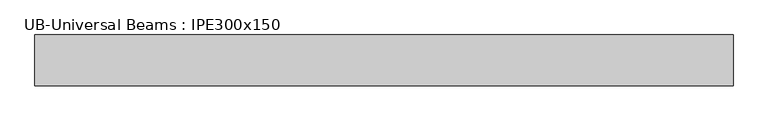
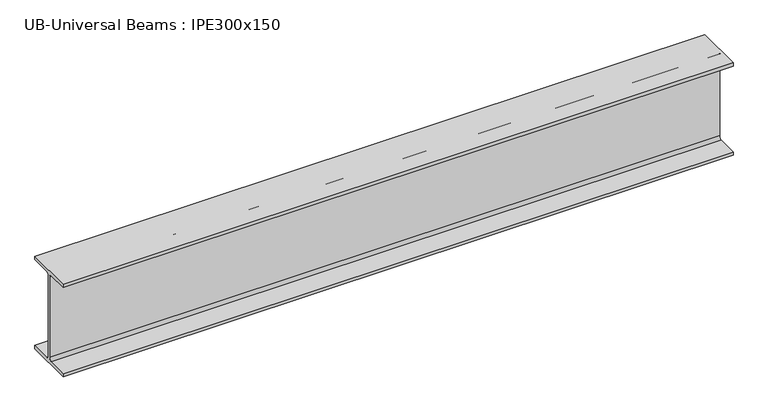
"""IFC4 building model written with IfcOpenShell, lengths in millimetres: beam geometry, UB-Universal Beams : IPE300x150."""

from ifc_helpers import new_model, si_unit, point, frame, frame_2d, origin, place, context, project, spatial, polyline, circle_curve, trimmed, segment, composite_curve, outline, extrude, source, transform, mapped, element, save


def ub_universal_beams_ipe300x150_8c65f400(model_context):
    return source(origin(), model_context, "Body", "SweptSolid", [
        extrude(outline(composite_curve([segment(polyline([(-75.0, -139.8), (-11.9, -139.8)]), True, "CONTINUOUS"), segment(trimmed(circle_curve(frame_2d((-11.9, -130.9)), 8.9), [point((-11.9, -139.8))], [point((-3.0, -130.9))], True, "CARTESIAN"), True, "CONTINUOUS"), segment(polyline([(-3.0, -130.9), (-3.0, 130.9)]), True, "CONTINUOUS"), segment(trimmed(circle_curve(frame_2d((-11.9, 130.9)), 8.9), [point((-3.0, 130.9))], [point((-11.9, 139.8))], True, "CARTESIAN"), True, "CONTINUOUS"), segment(polyline([(-11.9, 139.8), (-75.0, 139.8), (-75.0, 150.0), (75.0, 150.0), (75.0, 139.8), (11.9, 139.8)]), True, "CONTINUOUS"), segment(trimmed(circle_curve(frame_2d((11.9, 130.9)), 8.9), [point((11.9, 139.8))], [point((3.0, 130.9))], True, "CARTESIAN"), True, "CONTINUOUS"), segment(polyline([(3.0, 130.9), (3.0, -130.9)]), True, "CONTINUOUS"), segment(trimmed(circle_curve(frame_2d((11.9, -130.9)), 8.9), [point((3.0, -130.9))], [point((11.9, -139.8))], True, "CARTESIAN"), True, "CONTINUOUS"), segment(polyline([(11.9, -139.8), (75.0, -139.8), (75.0, -150.0), (-75.0, -150.0), (-75.0, -139.8)]), True, "CONTINUOUS")], self_intersect=False)), frame((-1026.0, 0.0, 0.0), z_axis=(1.0, 0.0, 0.0), x_axis=(0.0, 1.0, 0.0)), (0.0, 0.0, 1.0), 2058.5),
    ])


if __name__ == "__main__":
    model = new_model("IFC4")
    model_context = context("Model", 3, world=origin())
    ifc_project = project(units=[si_unit("LENGTHUNIT", "METRE", prefix="MILLI")], contexts=[model_context])
    site = spatial("IfcSite", under=ifc_project)
    building = spatial("IfcBuilding", under=site)
    placement = place(None, origin())
    ub_universal_beams_ipe300x150_shape = ub_universal_beams_ipe300x150_8c65f400(model_context)
    element("IfcBeam", 1, ObjectType="UB-Universal Beams : IPE300x150", at=placement, inside=building, context=model_context, shape_type="MappedRepresentation", body=[
        mapped(ub_universal_beams_ipe300x150_shape, transform((0.0, 0.0, 0.0), x_axis=(1.0, 0.0, 0.0), y_axis=(0.0, 1.0, 0.0), z_axis=(0.0, 0.0, 1.0))),
    ])
    save(model, "model.ifc")
